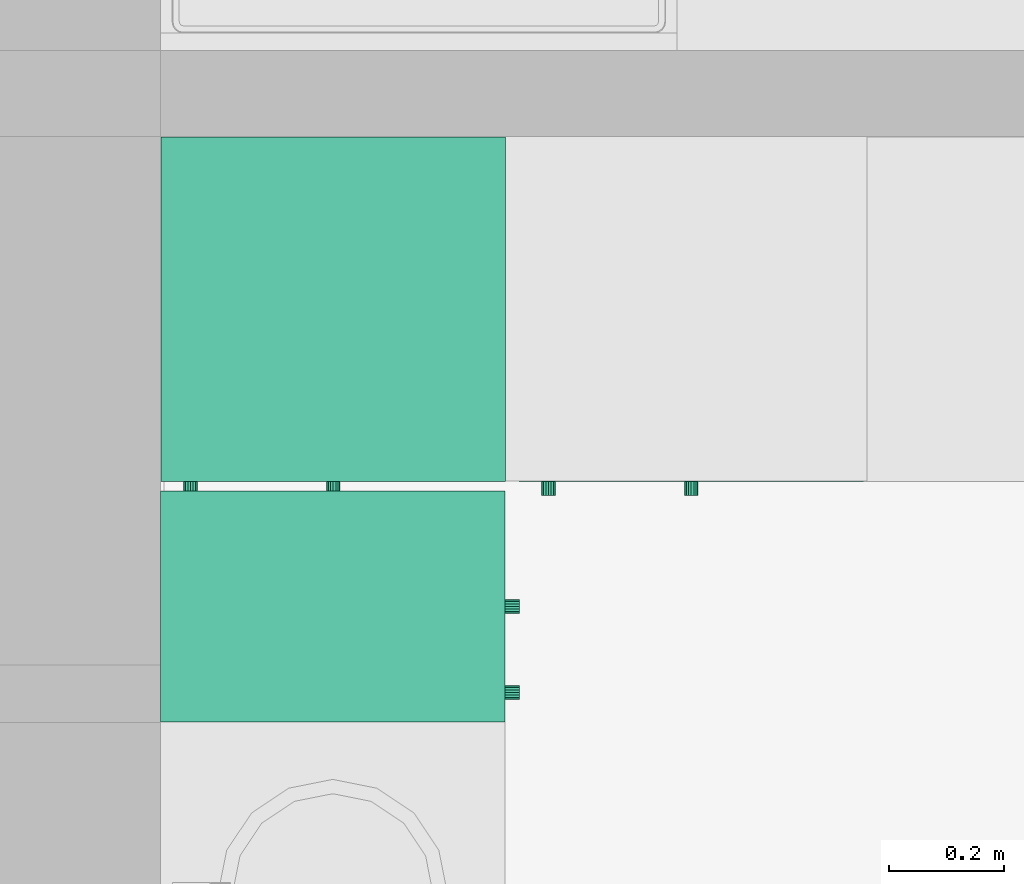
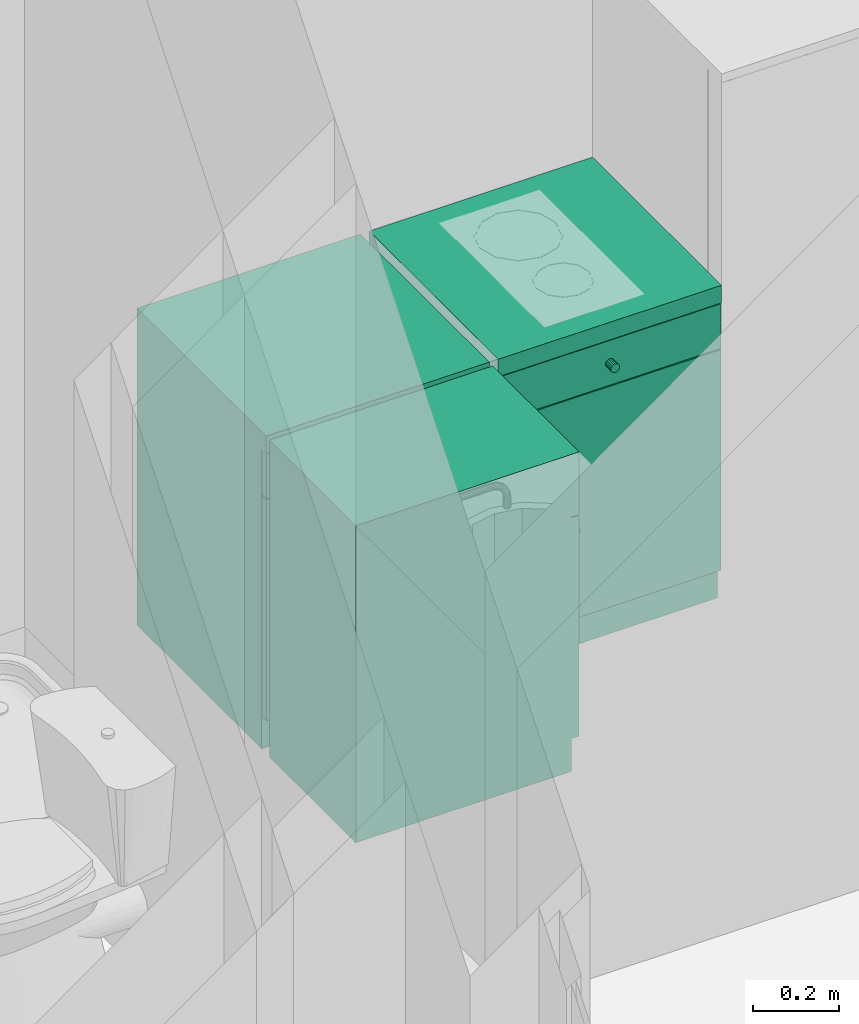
# One storey, part 37 of 165: 3 flow terminals.
"""IFC2X3 building model written with IfcOpenShell, lengths in millimetres."""

from ifc_helpers import new_model, entity, si_unit, converted_unit, money_unit, direction, frame, origin_with_axes, place, context, subcontext, project, spatial, faceted_brep, source, transform, mapped, material, material_list, type_object, element, save


model = new_model("IFC2X3")

# Units and contexts
model_context = context("Model", 3, precision=1e-05, world=origin_with_axes(), true_north=direction((0.0, 1.0)))
body_context = subcontext(model_context, "Body", "Model", "MODEL_VIEW")
ifc_project = project(units=[si_unit("LENGTHUNIT", "METRE", prefix="MILLI"), si_unit("AREAUNIT", "SQUARE_METRE"), si_unit("VOLUMEUNIT", "CUBIC_METRE"), converted_unit("PLANEANGLEUNIT", "DEGREE", entity("IfcPlaneAngleMeasure", 0.0174532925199), si_unit("PLANEANGLEUNIT", "RADIAN"), dimensions=[0, 0, 0, 0, 0, 0, 0]), si_unit("SOLIDANGLEUNIT", "STERADIAN"), money_unit("USD"), converted_unit("TIMEUNIT", "Year", entity("IfcTimeMeasure", 31556926.0), si_unit("TIMEUNIT", "SECOND"), dimensions=[0, 0, 0, 0, 0, 0, 0]), si_unit("MASSUNIT", "GRAM"), si_unit("THERMODYNAMICTEMPERATUREUNIT", "DEGREE_CELSIUS"), si_unit("LUMINOUSINTENSITYUNIT", "LUMEN")], contexts=[model_context])

# Site, building, storey
site_placement = place(None, origin_with_axes())
site = spatial("IfcSite", under=ifc_project, at=site_placement, Name="Site", CompositionType="ELEMENT")
building_placement = place(site_placement, origin_with_axes())
building = spatial("IfcBuilding", under=site, at=building_placement, Name="Building", CompositionType="ELEMENT")
storey_placement = place(building_placement, frame((0.0, 0.0, 6300.0), z_axis=(0.0, 0.0, 1.0), x_axis=(1.0, 0.0, 0.0)))
storey = spatial("IfcBuildingStorey", under=building, at=storey_placement, Name="4KORRUS", CompositionType="ELEMENT", Elevation=6300.0)

# Flow terminals
ifc_material = material(Name="Background")
ifc_material_list = material_list([ifc_material])
sanitary_terminal_type = type_object("IfcSanitaryTerminalType", Name="Cabinet Base Single Door 19", PredefinedType="SINK")
shared_shape_1 = source(origin_with_axes(), body_context, "Body", "Brep", [
    faceted_brep([(-20.0, 20.0, 710.0), (-20.0, 20.0, 730.0), (-580.0, 20.0, 730.0), (-580.0, 20.0, 710.0), (-20.0, 580.0, 710.0), (-20.0, 580.0, 730.0), (-580.0, 580.0, 730.0), (-580.0, 580.0, 710.0)], [[[0, 1, 2, 3]], [[4, 5, 1, 0]], [[1, 5, 6, 2]], [[3, 2, 6, 7]], [[0, 3, 7, 4]], [[7, 6, 5, 4]]]),
    faceted_brep([(0.0, 20.0, 0.0), (0.0, 20.0, 90.0), (-600.0, 20.0, 90.0), (-600.0, 20.0, 0.0), (0.0, 600.0, 0.0), (0.0, 600.0, 90.0), (-600.0, 600.0, 90.0), (-600.0, 600.0, 0.0)], [[[0, 1, 2, 3]], [[4, 5, 1, 0]], [[1, 5, 6, 2]], [[3, 2, 6, 7]], [[0, 3, 7, 4]], [[7, 6, 5, 4]]]),
    faceted_brep([(0.0, 20.0, 830.0), (0.0, 20.0, 850.0), (-20.0, 20.0, 850.0), (-20.0, 20.0, 830.0), (0.0, 600.0, 830.0), (0.0, 600.0, 850.0), (-20.0, 600.0, 850.0), (-580.0, 600.0, 850.0), (-600.0, 600.0, 850.0), (-600.0, 20.0, 850.0), (-580.0, 20.0, 850.0), (-580.0, 20.0, 830.0), (-600.0, 20.0, 830.0), (-600.0, 600.0, 830.0), (-580.0, 600.0, 830.0), (-20.0, 600.0, 830.0)], [[[0, 1, 2, 3]], [[4, 5, 1, 0]], [[1, 5, 6, 7, 8, 9, 10, 2]], [[3, 2, 10, 11]], [[0, 3, 11, 12, 13, 14, 15, 4]], [[15, 6, 5, 4]], [[14, 7, 6, 15]], [[13, 8, 7, 14]], [[12, 9, 8, 13]], [[11, 10, 9, 12]]]),
    faceted_brep([(0.0, 20.0, 90.0), (0.0, 20.0, 110.0), (-20.0, 20.0, 110.0), (-20.0, 20.0, 90.0), (0.0, 600.0, 90.0), (0.0, 600.0, 110.0), (-20.0, 600.0, 110.0), (-580.0, 600.0, 110.0), (-600.0, 600.0, 110.0), (-600.0, 20.0, 110.0), (-580.0, 20.0, 110.0), (-580.0, 20.0, 90.0), (-600.0, 20.0, 90.0), (-600.0, 600.0, 90.0), (-580.0, 600.0, 90.0), (-20.0, 600.0, 90.0)], [[[0, 1, 2, 3]], [[4, 5, 1, 0]], [[1, 5, 6, 7, 8, 9, 10, 2]], [[3, 2, 10, 11]], [[0, 3, 11, 12, 13, 14, 15, 4]], [[15, 6, 5, 4]], [[14, 7, 6, 15]], [[13, 8, 7, 14]], [[12, 9, 8, 13]], [[11, 10, 9, 12]]]),
    faceted_brep([(0.0, 20.0, 110.0), (0.0, 20.0, 830.0), (-20.0, 20.0, 830.0), (-20.0, 20.0, 110.0), (0.0, 600.0, 110.0), (0.0, 600.0, 830.0), (-600.0, 600.0, 830.0), (-600.0, 20.0, 830.0), (-580.0, 20.0, 830.0), (-580.0, 580.0, 830.0), (-20.0, 580.0, 830.0), (-20.0, 580.0, 110.0), (-580.0, 580.0, 110.0), (-580.0, 20.0, 110.0), (-600.0, 20.0, 110.0), (-600.0, 600.0, 110.0)], [[[0, 1, 2, 3]], [[4, 5, 1, 0]], [[1, 5, 6, 7, 8, 9, 10, 2]], [[3, 2, 10, 11]], [[0, 3, 11, 12, 13, 14, 15, 4]], [[15, 6, 5, 4]], [[14, 7, 6, 15]], [[13, 8, 7, 14]], [[12, 9, 8, 13]], [[11, 10, 9, 12]]]),
    faceted_brep([(-580.0, 20.0, 385.0), (-580.0, 20.0, 405.0), (-580.0, 580.0, 405.0), (-580.0, 580.0, 385.0), (-20.0, 20.0, 385.0), (-20.0, 20.0, 405.0), (-20.0, 580.0, 405.0), (-20.0, 580.0, 385.0)], [[[0, 1, 2, 3]], [[4, 5, 1, 0]], [[1, 5, 6, 2]], [[3, 2, 6, 7]], [[0, 3, 7, 4]], [[7, 6, 5, 4]]]),
    faceted_brep([(0.0, 0.0, 850.0), (0.0, 0.0, 900.0), (-600.0, 0.0, 900.0), (-600.0, 0.0, 850.0), (0.0, 600.0, 850.0), (0.0, 600.0, 900.0), (-600.0, 600.0, 900.0), (-600.0, 600.0, 850.0)], [[[0, 1, 2, 3]], [[4, 5, 1, 0]], [[1, 5, 6, 2]], [[3, 2, 6, 7]], [[0, 3, 7, 4]], [[7, 6, 5, 4]]]),
    faceted_brep([(-1.5, 20.0, 721.5), (-1.5, 0.0, 721.5), (-598.5, 0.0, 721.5), (-598.5, 20.0, 721.5), (-1.5, 20.0, 848.5), (-1.5, 0.0, 848.5), (-598.5, 0.0, 848.5), (-598.5, 20.0, 848.5)], [[[0, 1, 2, 3]], [[4, 5, 1, 0]], [[1, 5, 6, 2]], [[3, 2, 6, 7]], [[0, 3, 7, 4]], [[7, 6, 5, 4]]]),
    faceted_brep([(-295.408, 0.0, 773.913), (-300.0, 0.0, 773.0), (-304.592, 0.0, 773.913), (-308.485, 0.0, 776.515), (-311.087, 0.0, 780.408), (-312.0, 0.0, 785.0), (-311.087, 0.0, 789.592), (-308.485, 0.0, 793.485), (-304.592, 0.0, 796.087), (-300.0, 0.0, 797.0), (-295.408, 0.0, 796.087), (-291.515, 0.0, 793.485), (-288.913, 0.0, 789.592), (-288.0, 0.0, 785.0), (-288.913, 0.0, 780.408), (-291.515, 0.0, 776.515), (-295.408, -25.0, 773.913), (-300.0, -25.0, 773.0), (-304.592, -25.0, 773.913), (-308.485, -25.0, 776.515), (-311.087, -25.0, 780.408), (-312.0, -25.0, 785.0), (-311.087, -25.0, 789.592), (-308.485, -25.0, 793.485), (-304.592, -25.0, 796.087), (-300.0, -25.0, 797.0), (-295.408, -25.0, 796.087), (-291.515, -25.0, 793.485), (-288.913, -25.0, 789.592), (-288.0, -25.0, 785.0), (-288.913, -25.0, 780.408), (-291.515, -25.0, 776.515)], [[[0, 1, 2, 3, 4, 5, 6, 7, 8, 9, 10, 11, 12, 13, 14, 15]], [[0, 16, 17, 1]], [[1, 17, 18, 2]], [[2, 18, 19, 3]], [[3, 19, 20, 4]], [[4, 20, 21, 5]], [[5, 21, 22, 6]], [[6, 22, 23, 7]], [[7, 23, 24, 8]], [[8, 24, 25, 9]], [[9, 25, 26, 10]], [[10, 26, 27, 11]], [[11, 27, 28, 12]], [[12, 28, 29, 13]], [[13, 29, 30, 14]], [[14, 30, 31, 15]], [[15, 31, 16, 0]], [[16, 31, 30, 29, 28, 27, 26, 25, 24, 23, 22, 21, 20, 19, 18, 17]]]),
    faceted_brep([(-1.5, 20.0, 91.5), (-1.5, 0.0, 91.5), (-598.5, 0.0, 91.5), (-598.5, 20.0, 91.5), (-1.5, 20.0, 718.5), (-1.5, 0.0, 718.5), (-598.5, 0.0, 718.5), (-598.5, 20.0, 718.5)], [[[0, 1, 2, 3]], [[4, 5, 1, 0]], [[1, 5, 6, 2]], [[3, 2, 6, 7]], [[0, 3, 7, 4]], [[7, 6, 5, 4]]]),
    faceted_brep([(-559.587, 0.0, 636.908), (-560.5, 0.0, 641.5), (-559.587, 0.0, 646.092), (-556.985, 0.0, 649.985), (-553.092, 0.0, 652.587), (-548.5, 0.0, 653.5), (-543.908, 0.0, 652.587), (-540.015, 0.0, 649.985), (-537.413, 0.0, 646.092), (-536.5, 0.0, 641.5), (-537.413, 0.0, 636.908), (-540.015, 0.0, 633.015), (-543.908, 0.0, 630.413), (-548.5, 0.0, 629.5), (-553.092, 0.0, 630.413), (-556.985, 0.0, 633.015), (-559.587, -25.0, 636.908), (-560.5, -25.0, 641.5), (-559.587, -25.0, 646.092), (-556.985, -25.0, 649.985), (-553.092, -25.0, 652.587), (-548.5, -25.0, 653.5), (-543.908, -25.0, 652.587), (-540.015, -25.0, 649.985), (-537.413, -25.0, 646.092), (-536.5, -25.0, 641.5), (-537.413, -25.0, 636.908), (-540.015, -25.0, 633.015), (-543.908, -25.0, 630.413), (-548.5, -25.0, 629.5), (-553.092, -25.0, 630.413), (-556.985, -25.0, 633.015)], [[[0, 1, 2, 3, 4, 5, 6, 7, 8, 9, 10, 11, 12, 13, 14, 15]], [[0, 16, 17, 1]], [[1, 17, 18, 2]], [[2, 18, 19, 3]], [[3, 19, 20, 4]], [[4, 20, 21, 5]], [[5, 21, 22, 6]], [[6, 22, 23, 7]], [[7, 23, 24, 8]], [[8, 24, 25, 9]], [[9, 25, 26, 10]], [[10, 26, 27, 11]], [[11, 27, 28, 12]], [[12, 28, 29, 13]], [[13, 29, 30, 14]], [[14, 30, 31, 15]], [[15, 31, 16, 0]], [[16, 31, 30, 29, 28, 27, 26, 25, 24, 23, 22, 21, 20, 19, 18, 17]]]),
])
for number, where, z_axis, x_axis, name in (
    (1, (-34765.7435229, -9967.37850445, 0.0), (0.0, 0.0, 1.0), (1.0, 0.0, 0.0), "FU - 007"),
    (2, (-35389.4629732, -9967.37850445, 0.0), (0.0, 0.0, 1.0), (1.0, 0.0, 0.0), "FU - 007"),
):
    element("IfcFlowTerminal", number, at=place(storey_placement, frame(where, z_axis=z_axis, x_axis=x_axis)), inside=storey, type_object=sanitary_terminal_type, material=ifc_material_list, Name=name, context=body_context, shape_type="MappedRepresentation", body=[
        mapped(shared_shape_1, transform((0.0, 0.0, 0.0))),
    ])
shared_shape_2 = source(origin_with_axes(), body_context, "Body", "Brep", [
    faceted_brep([(-20.0, 20.0, 710.0), (-20.0, 20.0, 730.0), (-382.248, 20.0, 730.0), (-382.248, 20.0, 710.0), (-20.0, 580.0, 710.0), (-20.0, 580.0, 730.0), (-382.248, 580.0, 730.0), (-382.248, 580.0, 710.0)], [[[0, 1, 2, 3]], [[4, 5, 1, 0]], [[1, 5, 6, 2]], [[3, 2, 6, 7]], [[0, 3, 7, 4]], [[7, 6, 5, 4]]]),
    faceted_brep([(0.0, 20.0, 0.0), (0.0, 20.0, 90.0), (-402.248, 20.0, 90.0), (-402.248, 20.0, 0.0), (0.0, 600.0, 0.0), (0.0, 600.0, 90.0), (-402.248, 600.0, 90.0), (-402.248, 600.0, 0.0)], [[[0, 1, 2, 3]], [[4, 5, 1, 0]], [[1, 5, 6, 2]], [[3, 2, 6, 7]], [[0, 3, 7, 4]], [[7, 6, 5, 4]]]),
    faceted_brep([(0.0, 20.0, 830.0), (0.0, 20.0, 850.0), (-20.0, 20.0, 850.0), (-20.0, 20.0, 830.0), (0.0, 600.0, 830.0), (0.0, 600.0, 850.0), (-20.0, 600.0, 850.0), (-382.248, 600.0, 850.0), (-402.248, 600.0, 850.0), (-402.248, 20.0, 850.0), (-382.248, 20.0, 850.0), (-382.248, 20.0, 830.0), (-402.248, 20.0, 830.0), (-402.248, 600.0, 830.0), (-382.248, 600.0, 830.0), (-20.0, 600.0, 830.0)], [[[0, 1, 2, 3]], [[4, 5, 1, 0]], [[1, 5, 6, 7, 8, 9, 10, 2]], [[3, 2, 10, 11]], [[0, 3, 11, 12, 13, 14, 15, 4]], [[15, 6, 5, 4]], [[14, 7, 6, 15]], [[13, 8, 7, 14]], [[12, 9, 8, 13]], [[11, 10, 9, 12]]]),
    faceted_brep([(0.0, 20.0, 90.0), (0.0, 20.0, 110.0), (-20.0, 20.0, 110.0), (-20.0, 20.0, 90.0), (0.0, 600.0, 90.0), (0.0, 600.0, 110.0), (-20.0, 600.0, 110.0), (-382.248, 600.0, 110.0), (-402.248, 600.0, 110.0), (-402.248, 20.0, 110.0), (-382.248, 20.0, 110.0), (-382.248, 20.0, 90.0), (-402.248, 20.0, 90.0), (-402.248, 600.0, 90.0), (-382.248, 600.0, 90.0), (-20.0, 600.0, 90.0)], [[[0, 1, 2, 3]], [[4, 5, 1, 0]], [[1, 5, 6, 7, 8, 9, 10, 2]], [[3, 2, 10, 11]], [[0, 3, 11, 12, 13, 14, 15, 4]], [[15, 6, 5, 4]], [[14, 7, 6, 15]], [[13, 8, 7, 14]], [[12, 9, 8, 13]], [[11, 10, 9, 12]]]),
    faceted_brep([(0.0, 20.0, 110.0), (0.0, 20.0, 830.0), (-20.0, 20.0, 830.0), (-20.0, 20.0, 110.0), (0.0, 600.0, 110.0), (0.0, 600.0, 830.0), (-402.248, 600.0, 830.0), (-402.248, 20.0, 830.0), (-382.248, 20.0, 830.0), (-382.248, 580.0, 830.0), (-20.0, 580.0, 830.0), (-20.0, 580.0, 110.0), (-382.248, 580.0, 110.0), (-382.248, 20.0, 110.0), (-402.248, 20.0, 110.0), (-402.248, 600.0, 110.0)], [[[0, 1, 2, 3]], [[4, 5, 1, 0]], [[1, 5, 6, 7, 8, 9, 10, 2]], [[3, 2, 10, 11]], [[0, 3, 11, 12, 13, 14, 15, 4]], [[15, 6, 5, 4]], [[14, 7, 6, 15]], [[13, 8, 7, 14]], [[12, 9, 8, 13]], [[11, 10, 9, 12]]]),
    faceted_brep([(-382.248, 20.0, 385.0), (-382.248, 20.0, 405.0), (-382.248, 580.0, 405.0), (-382.248, 580.0, 385.0), (-20.0, 20.0, 385.0), (-20.0, 20.0, 405.0), (-20.0, 580.0, 405.0), (-20.0, 580.0, 385.0)], [[[0, 1, 2, 3]], [[4, 5, 1, 0]], [[1, 5, 6, 2]], [[3, 2, 6, 7]], [[0, 3, 7, 4]], [[7, 6, 5, 4]]]),
    faceted_brep([(0.0, 0.0, 850.0), (0.0, 0.0, 900.0), (-402.248, 0.0, 900.0), (-402.248, 0.0, 850.0), (0.0, 600.0, 850.0), (0.0, 600.0, 900.0), (-402.248, 600.0, 900.0), (-402.248, 600.0, 850.0)], [[[0, 1, 2, 3]], [[4, 5, 1, 0]], [[1, 5, 6, 2]], [[3, 2, 6, 7]], [[0, 3, 7, 4]], [[7, 6, 5, 4]]]),
    faceted_brep([(-1.5, 20.0, 721.5), (-1.5, 0.0, 721.5), (-400.748, 0.0, 721.5), (-400.748, 20.0, 721.5), (-1.5, 20.0, 848.5), (-1.5, 0.0, 848.5), (-400.748, 0.0, 848.5), (-400.748, 20.0, 848.5)], [[[0, 1, 2, 3]], [[4, 5, 1, 0]], [[1, 5, 6, 2]], [[3, 2, 6, 7]], [[0, 3, 7, 4]], [[7, 6, 5, 4]]]),
    faceted_brep([(-196.532, 0.0, 773.913), (-201.124, 0.0, 773.0), (-205.716, 0.0, 773.913), (-209.609, 0.0, 776.515), (-212.211, 0.0, 780.408), (-213.124, 0.0, 785.0), (-212.211, 0.0, 789.592), (-209.609, 0.0, 793.485), (-205.716, 0.0, 796.087), (-201.124, 0.0, 797.0), (-196.532, 0.0, 796.087), (-192.639, 0.0, 793.485), (-190.038, 0.0, 789.592), (-189.124, 0.0, 785.0), (-190.038, 0.0, 780.408), (-192.639, 0.0, 776.515), (-196.532, -25.0, 773.913), (-201.124, -25.0, 773.0), (-205.716, -25.0, 773.913), (-209.609, -25.0, 776.515), (-212.211, -25.0, 780.408), (-213.124, -25.0, 785.0), (-212.211, -25.0, 789.592), (-209.609, -25.0, 793.485), (-205.716, -25.0, 796.087), (-201.124, -25.0, 797.0), (-196.532, -25.0, 796.087), (-192.639, -25.0, 793.485), (-190.038, -25.0, 789.592), (-189.124, -25.0, 785.0), (-190.038, -25.0, 780.408), (-192.639, -25.0, 776.515)], [[[0, 1, 2, 3, 4, 5, 6, 7, 8, 9, 10, 11, 12, 13, 14, 15]], [[0, 16, 17, 1]], [[1, 17, 18, 2]], [[2, 18, 19, 3]], [[3, 19, 20, 4]], [[4, 20, 21, 5]], [[5, 21, 22, 6]], [[6, 22, 23, 7]], [[7, 23, 24, 8]], [[8, 24, 25, 9]], [[9, 25, 26, 10]], [[10, 26, 27, 11]], [[11, 27, 28, 12]], [[12, 28, 29, 13]], [[13, 29, 30, 14]], [[14, 30, 31, 15]], [[15, 31, 16, 0]], [[16, 31, 30, 29, 28, 27, 26, 25, 24, 23, 22, 21, 20, 19, 18, 17]]]),
    faceted_brep([(-1.5, 20.0, 91.5), (-1.5, 0.0, 91.5), (-400.748, 0.0, 91.5), (-400.748, 20.0, 91.5), (-1.5, 20.0, 718.5), (-1.5, 0.0, 718.5), (-400.748, 0.0, 718.5), (-400.748, 20.0, 718.5)], [[[0, 1, 2, 3]], [[4, 5, 1, 0]], [[1, 5, 6, 2]], [[3, 2, 6, 7]], [[0, 3, 7, 4]], [[7, 6, 5, 4]]]),
    faceted_brep([(-361.835, 0.0, 636.908), (-362.748, 0.0, 641.5), (-361.835, 0.0, 646.092), (-359.234, 0.0, 649.985), (-355.341, 0.0, 652.587), (-350.748, 0.0, 653.5), (-346.156, 0.0, 652.587), (-342.263, 0.0, 649.985), (-339.662, 0.0, 646.092), (-338.748, 0.0, 641.5), (-339.662, 0.0, 636.908), (-342.263, 0.0, 633.015), (-346.156, 0.0, 630.413), (-350.748, 0.0, 629.5), (-355.341, 0.0, 630.413), (-359.234, 0.0, 633.015), (-361.835, -25.0, 636.908), (-362.748, -25.0, 641.5), (-361.835, -25.0, 646.092), (-359.234, -25.0, 649.985), (-355.341, -25.0, 652.587), (-350.748, -25.0, 653.5), (-346.156, -25.0, 652.587), (-342.263, -25.0, 649.985), (-339.662, -25.0, 646.092), (-338.748, -25.0, 641.5), (-339.662, -25.0, 636.908), (-342.263, -25.0, 633.015), (-346.156, -25.0, 630.413), (-350.748, -25.0, 629.5), (-355.341, -25.0, 630.413), (-359.234, -25.0, 633.015)], [[[0, 1, 2, 3, 4, 5, 6, 7, 8, 9, 10, 11, 12, 13, 14, 15]], [[0, 16, 17, 1]], [[1, 17, 18, 2]], [[2, 18, 19, 3]], [[3, 19, 20, 4]], [[4, 20, 21, 5]], [[5, 21, 22, 6]], [[6, 22, 23, 7]], [[7, 23, 24, 8]], [[8, 24, 25, 9]], [[9, 25, 26, 10]], [[10, 26, 27, 11]], [[11, 27, 28, 12]], [[12, 28, 29, 13]], [[13, 29, 30, 14]], [[14, 30, 31, 15]], [[15, 31, 16, 0]], [[16, 31, 30, 29, 28, 27, 26, 25, 24, 23, 22, 21, 20, 19, 18, 17]]]),
])
flow_terminal_placement = place(storey_placement, frame((-35390.2967033, -9984.35577908, 0.0), z_axis=(0.0, 0.0, 1.0), x_axis=(0.0, 1.0, 0.0)))
element("IfcFlowTerminal", 3, at=flow_terminal_placement, inside=storey, type_object=sanitary_terminal_type, material=ifc_material_list, Name="FU - 007", context=body_context, shape_type="MappedRepresentation", body=[
    mapped(shared_shape_2, transform((0.0, 0.0, 0.0))),
])

save(model, "model.ifc")
